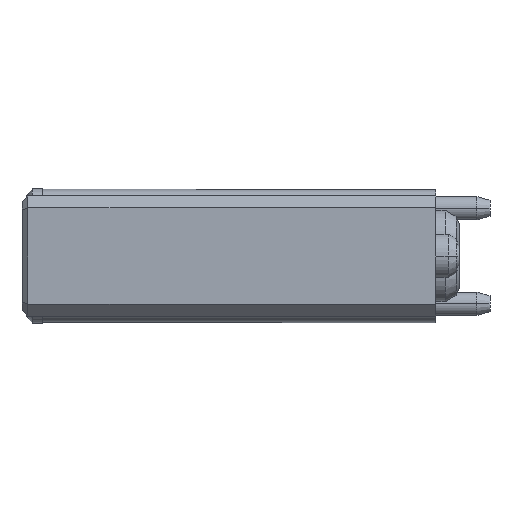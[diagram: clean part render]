
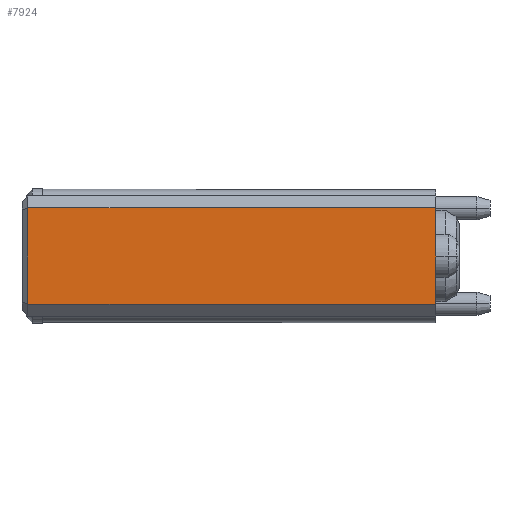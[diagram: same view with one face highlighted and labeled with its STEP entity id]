
A CAD part, front view. The second image highlights one B-rep face of the part: STEP entity #7924.
In plain terms, the highlighted planar face has unit normal (0, -1, 0).
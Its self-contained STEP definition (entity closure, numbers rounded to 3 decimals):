
#531=DIRECTION('',(0.,0.,1.));
#532=VECTOR('',#531,8.3);
#533=CARTESIAN_POINT('',(17.75,-65.91,-4.15));
#534=LINE('',#533,#532);
#804=DIRECTION('',(-1.,0.,0.));
#805=VECTOR('',#804,35.);
#806=CARTESIAN_POINT('',(17.75,-65.91,4.15));
#807=LINE('',#806,#805);
#2471=DIRECTION('',(1.,0.,0.));
#2472=VECTOR('',#2471,35.);
#2473=CARTESIAN_POINT('',(-17.25,-65.91,-4.15));
#2474=LINE('',#2473,#2472);
#2506=DIRECTION('',(0.,0.,1.));
#2507=VECTOR('',#2506,8.3);
#2508=CARTESIAN_POINT('',(-17.25,-65.91,-4.15));
#2509=LINE('',#2508,#2507);
#5016=CARTESIAN_POINT('',(17.75,-65.91,-4.15));
#5017=VERTEX_POINT('',#5016);
#5018=CARTESIAN_POINT('',(17.75,-65.91,4.15));
#5019=VERTEX_POINT('',#5018);
#5057=CARTESIAN_POINT('',(-17.25,-65.91,4.15));
#5058=VERTEX_POINT('',#5057);
#5142=CARTESIAN_POINT('',(-17.25,-65.91,-4.15));
#5143=VERTEX_POINT('',#5142);
#7913=CARTESIAN_POINT('',(0.25,-65.91,0.));
#7914=DIRECTION('',(0.,1.,0.));
#7915=DIRECTION('',(1.,0.,0.));
#7916=AXIS2_PLACEMENT_3D('',#7913,#7914,#7915);
#7917=PLANE('',#7916);
#7918=ORIENTED_EDGE('',*,*,#7907,.T.);
#7919=ORIENTED_EDGE('',*,*,#6711,.F.);
#7920=ORIENTED_EDGE('',*,*,#6566,.F.);
#7921=ORIENTED_EDGE('',*,*,#7880,.F.);
#7922=EDGE_LOOP('',(#7918,#7919,#7920,#7921));
#7923=FACE_OUTER_BOUND('',#7922,.F.);
#7924=ADVANCED_FACE('',(#7923),#7917,.F.);
#6566=EDGE_CURVE('',#5017,#5019,#534,.T.);
#6711=EDGE_CURVE('',#5019,#5058,#807,.T.);
#7880=EDGE_CURVE('',#5143,#5017,#2474,.T.);
#7907=EDGE_CURVE('',#5143,#5058,#2509,.T.);
